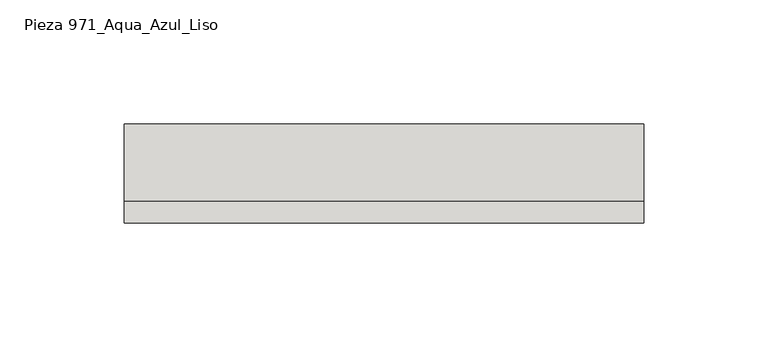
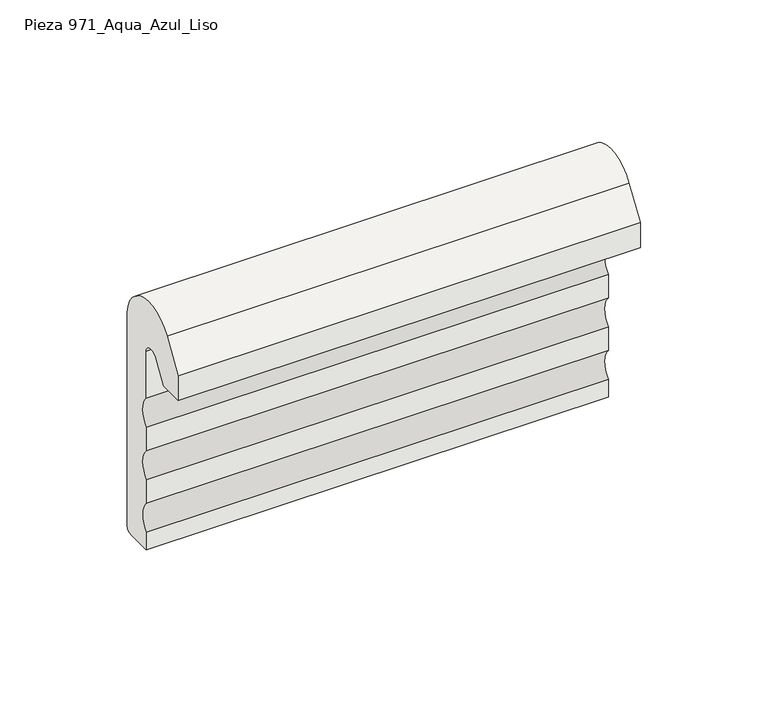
"""IFC4 building model written with IfcOpenShell, lengths in millimetres: slab geometry, ROSA GRES_971 : Pieza 971_Aqua_Azul_Liso."""

from ifc_helpers import new_model, si_unit, point, frame, frame_2d, origin, place, context, project, spatial, polyline, circle_curve, trimmed, segment, composite_curve, outline, extrude, source, transform, mapped, element, save


def pieza_971_aqua_azul_liso_f9e32015(model_context):
    return source(origin(), model_context, "Body", "SweptSolid", [
        extrude(outline(composite_curve([segment(trimmed(circle_curve(frame_2d((-16.8529233, 144.6319512)), 16.9196478), [point((-31.1851409, 153.6242825))], [point((0.0, 146.1331033))], False, "CARTESIAN"), True, "CONTINUOUS"), segment(polyline([(0.0, 146.1331033), (0.0, 44.0250913)]), True, "CONTINUOUS"), segment(trimmed(circle_curve(frame_2d((-2.68, 44.0250913)), 2.68), [point((0.0, 44.0250913))], [point((-2.68, 41.3450913))], False, "CARTESIAN"), True, "CONTINUOUS"), segment(polyline([(-2.68, 41.3450913), (-15.0062809, 41.3450913), (-15.0062809, 49.6275439)]), True, "CONTINUOUS"), segment(trimmed(circle_curve(frame_2d((-21.3959123, 56.5905141)), 9.450415), [point((-15.0062809, 49.6275439))], [point((-14.9614723, 63.5120982))], True, "CARTESIAN"), True, "CONTINUOUS"), segment(polyline([(-14.9614723, 63.5120982), (-14.9614723, 74.8171516)]), True, "CONTINUOUS"), segment(trimmed(circle_curve(frame_2d((-21.3511036, 81.7801218)), 9.450415), [point((-14.9614723, 74.8171516))], [point((-14.9166636, 88.7017059))], True, "CARTESIAN"), True, "CONTINUOUS"), segment(polyline([(-14.9166636, 88.7017059), (-14.9166636, 100.0067593)]), True, "CONTINUOUS"), segment(trimmed(circle_curve(frame_2d((-21.3613471, 107.0507801)), 9.5473648), [point((-14.9166636, 100.0067593))], [point((-14.3481673, 113.5290116))], True, "CARTESIAN"), True, "CONTINUOUS"), segment(polyline([(-14.3481673, 113.5290116), (-14.3481673, 136.0931579)]), True, "CONTINUOUS"), segment(trimmed(circle_curve(frame_2d((-18.761148, 135.3324983)), 4.4780578), [point((-14.3481673, 136.0931579))], [point((-22.7114874, 137.4414839))], True, "CARTESIAN"), True, "CONTINUOUS"), segment(polyline([(-22.7114874, 137.4414839), (-28.5599154, 128.1510212), (-39.9975962, 128.1510212), (-39.9975962, 139.9882747), (-31.1851409, 153.6242825)]), True, "CONTINUOUS")], self_intersect=False)), frame((0.0, 0.0, 0.0), z_axis=(1.0, 0.0, 0.0), x_axis=(0.0, 1.0, 0.0)), (0.0, 0.0, 1.0), 209.6503501),
    ])


if __name__ == "__main__":
    model = new_model("IFC4")
    model_context = context("Model", 3, world=origin())
    ifc_project = project(units=[si_unit("LENGTHUNIT", "METRE", prefix="MILLI")], contexts=[model_context])
    site = spatial("IfcSite", under=ifc_project)
    building = spatial("IfcBuilding", under=site)
    placement = place(None, origin())
    pieza_971_aqua_azul_liso_shape = pieza_971_aqua_azul_liso_f9e32015(model_context)
    element("IfcSlab", 1, ObjectType="ROSA GRES_971 : Pieza 971_Aqua_Azul_Liso", at=placement, inside=building, context=model_context, shape_type="MappedRepresentation", body=[
        mapped(pieza_971_aqua_azul_liso_shape, transform((0.0, 0.0, 0.0), x_axis=(1.0, 0.0, 0.0), y_axis=(0.0, 1.0, 0.0), z_axis=(0.0, 0.0, 1.0))),
    ])
    save(model, "model.ifc")
